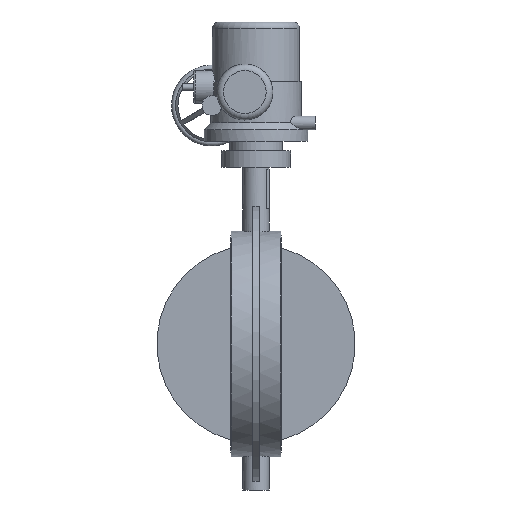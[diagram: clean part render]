
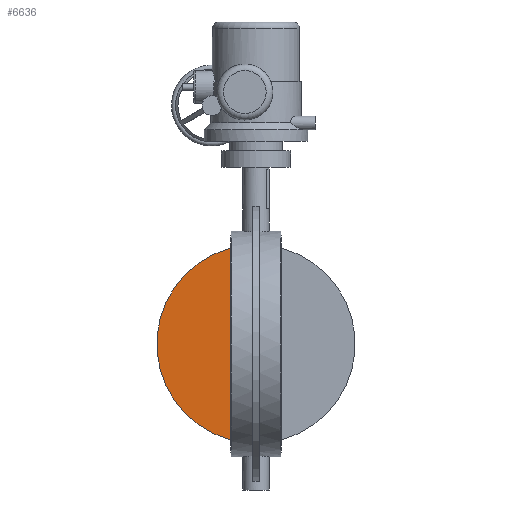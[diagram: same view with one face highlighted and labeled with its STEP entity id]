
A CAD part, front view. The second image highlights one B-rep face of the part: STEP entity #6636.
In plain terms, the highlighted planar face has unit normal (0, -1, 0).
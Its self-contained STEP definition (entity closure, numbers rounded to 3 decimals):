
#6636=ADVANCED_FACE('',(#12413),#12415,.T.);
#12413=FACE_BOUND('',#12414,.T.);
#12414=EDGE_LOOP('',(#16863,#16864,#16865,#16866));
#12415=PLANE('',#12416);
#12416=AXIS2_PLACEMENT_3D('',#12417,#12418,#12419);
#12417=CARTESIAN_POINT('',(0.,-11.,0.));
#12418=DIRECTION('',(0.,-1.,0.));
#12419=DIRECTION('',(0.,0.,1.));
#16863=ORIENTED_EDGE('',*,*,#19344,.T.);
#16864=ORIENTED_EDGE('',*,*,#18980,.T.);
#16865=ORIENTED_EDGE('',*,*,#19343,.T.);
#16866=ORIENTED_EDGE('',*,*,#18994,.T.);
#18980=EDGE_CURVE('',#22438,#22435,#22439,.F.);
#18994=EDGE_CURVE('',#22452,#22464,#22466,.T.);
#19343=EDGE_CURVE('',#22435,#22452,#22990,.T.);
#19344=EDGE_CURVE('',#22464,#22438,#22991,.F.);
#22435=VERTEX_POINT('',#32361);
#22438=VERTEX_POINT('',#32407);
#22439=LINE('',#32408,#32409);
#22452=VERTEX_POINT('',#32587);
#22464=VERTEX_POINT('',#32737);
#22466=LINE('',#32808,#32809);
#22990=CIRCLE('',#34176,301.5);
#22991=LINE('',#34180,#34181);
#32361=CARTESIAN_POINT('',(-31.988,-11.,299.798));
#32407=CARTESIAN_POINT('',(-27.911,-11.,299.798));
#32408=CARTESIAN_POINT('',(-31.988,-11.,299.798));
#32409=VECTOR('',#32410,1.);
#32410=DIRECTION('',(1.,0.,0.));
#32587=CARTESIAN_POINT('',(-31.988,-11.,-299.798));
#32737=CARTESIAN_POINT('',(-27.911,-11.,-299.798));
#32808=CARTESIAN_POINT('',(-31.988,-11.,-299.798));
#32809=VECTOR('',#32810,1.);
#32810=DIRECTION('',(1.,0.,0.));
#34176=AXIS2_PLACEMENT_3D('',#34177,#34178,#34179);
#34177=CARTESIAN_POINT('',(0.,-11.,0.));
#34178=DIRECTION('',(0.,-1.,0.));
#34179=DIRECTION('',(-0.106,0.,0.994));
#34180=CARTESIAN_POINT('',(-27.911,-11.,299.798));
#34181=VECTOR('',#34182,1.);
#34182=DIRECTION('',(0.,0.,-1.));
